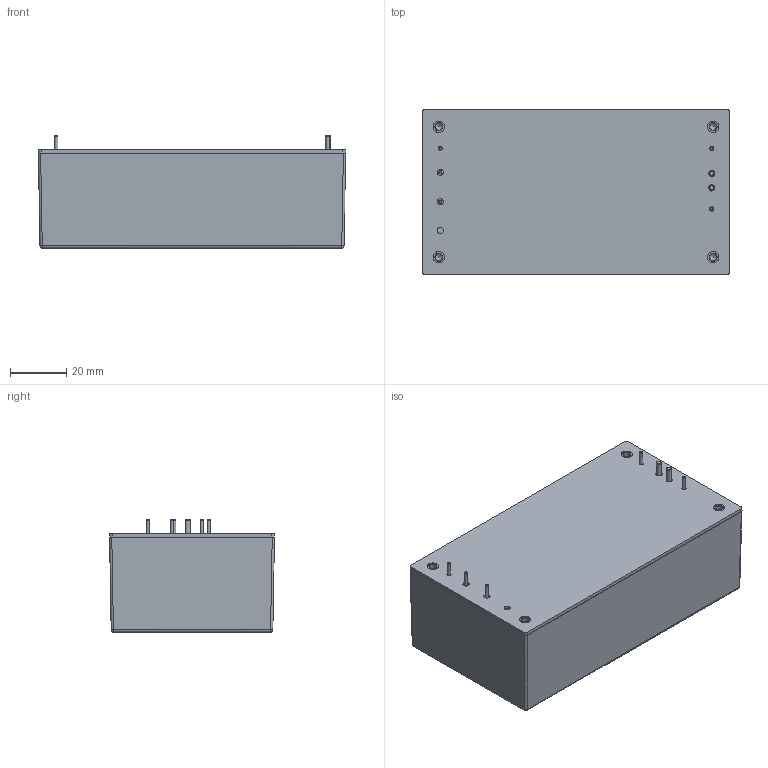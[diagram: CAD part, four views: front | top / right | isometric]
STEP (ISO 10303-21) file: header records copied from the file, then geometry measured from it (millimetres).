
FILE_DESCRIPTION(/* description */ (''),/* implementation_level */ '2;1');
FILE_NAME(/* name */ 'D:\Inventor\MQC150_MQF240\MQC100_150.stp',/* time_stamp */ '2022-05-27T13:52:09+08:00',/* author */ ('peter'),/* organization */ (''),/* preprocessor_version */ 'ST-DEVELOPER v15.2',/* originating_system */ 'Autodesk Inventor 2014',/* authorisation */ '');
FILE_SCHEMA (('AUTOMOTIVE_DESIGN { 1 0 10303 214 3 1 1 }'));
Length unit declared in the file: millimetre
Products named in the file (12): PCB _ MQC150; R378MQF24001; R378MQF24002; PIN - 1.2 x 12 mm; PIN - 1.8 x 12 mm; MYLAR _ R380MMQC15002; R377TCMQC15001; BOT CASE; M3 x 5 mm; MQC150
Bounding box: 109 x 58.5 x 40 mm (x, y, z)
Volume: 110939.6 mm3; surface area: 88811.8 mm2
Topology: 17 solids, 22 shells, 476 faces, 1184 edges, 775 vertices
Faces by surface type: plane 325, cylinder 103, cone 30, torus 14, bspline 4
Full cylindrical faces by diameter (mm): 1.2 x12, 1.5 x3, 1.8 x2, 2.2 x5, 2.459 x4, 2.5 x9, 3 x5, 3.5 x4, 4 x8, 6.441 x1, 7.488 x1, 7.847 x1, 7.879 x1, 9.802 x1, 10.169 x1
Entity records: 12965 total; most frequent: CARTESIAN_POINT 2385, DIRECTION 2077, ORIENTED_EDGE 2006, EDGE_CURVE 1008, LINE 811, VECTOR 811, VERTEX_POINT 701, AXIS2_PLACEMENT_3D 633
